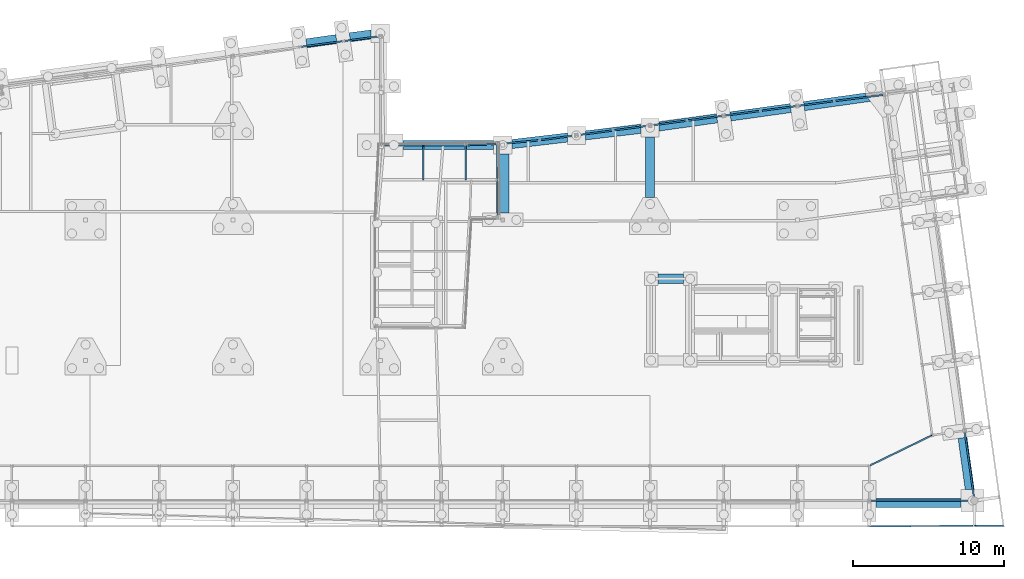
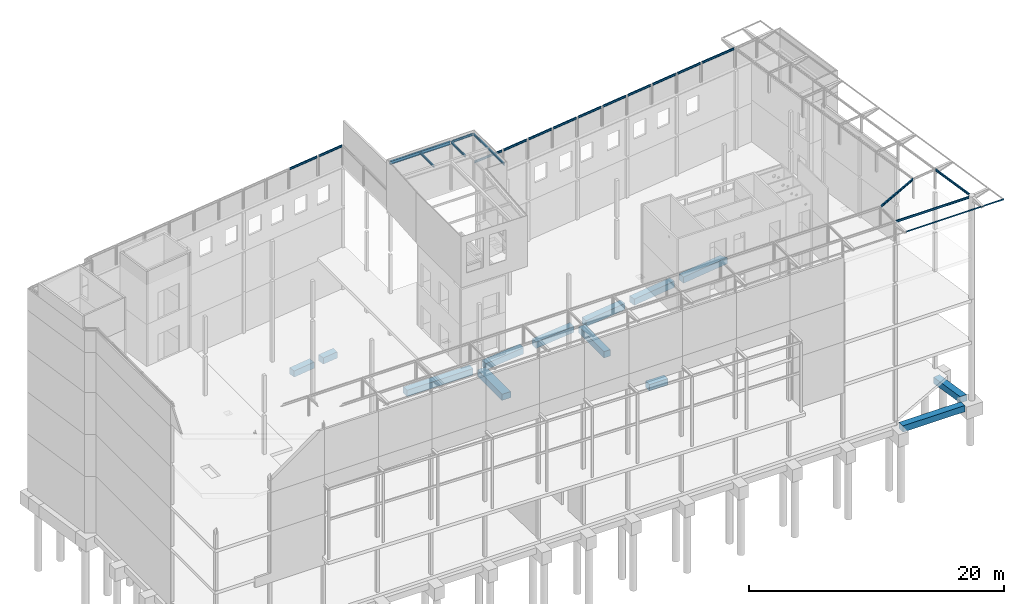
# One storey, part 64 of 82: 36 beams.
"""IFC2X3 building model written with IfcOpenShell, lengths in millimetres."""

import ifcopenshell
import ifcopenshell.guid

model = None  # the IFC model being written
_history = None  # IfcOwnerHistory: only IFC2X3 demands one
_inside = {}  # id of a spatial element -> (the spatial element, [elements in it])
_under = {}  # id of a project, library or spatial element -> (it, [spatial elements below it])
_declared = {}  # id of a project -> (the project, [libraries it declares])
_typed = {}  # id of a type object -> (the type object, [elements of that type])
_made_of = {}  # id of a material, layer set ... -> (it, [elements and type objects made of it])


def new_model(schema):
    """Start an empty IFC model of exactly this schema.

    Asked for "IFC4X3", IfcOpenShell would pick the latest addendum, in which some entities
    have other attributes; the version numbers below select the first issue.
    IFC2X3 requires an IfcOwnerHistory on every rooted entity: one is made here for all.
    """
    global model, _history
    if schema == "IFC4X3":
        model = ifcopenshell.file(schema_version=(4, 3, 0, 0))
    else:
        model = ifcopenshell.file(schema=schema)
    _inside.clear()
    _under.clear()
    _declared.clear()
    _typed.clear()
    _made_of.clear()
    _history = None
    if model.schema == "IFC2X3":
        org = make("IfcOrganization", Name="unknown")
        user = make(
            "IfcPersonAndOrganization",
            ThePerson=make("IfcPerson", FamilyName="unknown"),
            TheOrganization=org,
        )
        app = make(
            "IfcApplication",
            ApplicationDeveloper=org,
            Version="unknown",
            ApplicationFullName="unknown",
            ApplicationIdentifier="unknown",
        )
        _history = make(
            "IfcOwnerHistory",
            OwningUser=user,
            OwningApplication=app,
            ChangeAction="ADDED",
            CreationDate=0,
        )
    return model


def make(cls, **values):
    """One entity of the class cls with the attributes given. An attribute that is None is left unset."""
    return model.create_entity(
        cls, **{name: value for name, value in values.items() if value is not None}
    )


def rooted(cls, **values):
    """An entity with a GlobalId (a new one), such as an element, a storey or a relation."""
    return make(cls, GlobalId=ifcopenshell.guid.new(), OwnerHistory=_history, **values)


def si_unit(unit_type, name, prefix=None):
    """IfcSIUnit, for example si_unit("LENGTHUNIT", "METRE", prefix="MILLI")."""
    return make("IfcSIUnit", UnitType=unit_type, Prefix=prefix, Name=name)


def assignment(units):
    """IfcUnitAssignment: the units of a project."""
    return None if units is None else make("IfcUnitAssignment", Units=units)


def point(xyz):
    """IfcCartesianPoint."""
    return None if xyz is None else make("IfcCartesianPoint", Coordinates=xyz)


def direction(xyz):
    """IfcDirection."""
    return None if xyz is None else make("IfcDirection", DirectionRatios=xyz)


def frame(location, z_axis=None, x_axis=None):
    """IfcAxis2Placement3D, a coordinate frame: its origin and axes. An axis left out is left unset."""
    return make(
        "IfcAxis2Placement3D",
        Location=point(location),
        Axis=direction(z_axis),
        RefDirection=direction(x_axis),
    )


def frame_2d(location, x_axis=None):
    """IfcAxis2Placement2D, a coordinate frame in the plane: its origin and x axis."""
    return make(
        "IfcAxis2Placement2D", Location=point(location), RefDirection=direction(x_axis)
    )


def origin_with_axes():
    """The frame at (0, 0, 0) with the z axis (0, 0, 1) and the x axis (1, 0, 0) written out."""
    return frame((0.0, 0.0, 0.0), z_axis=(0.0, 0.0, 1.0), x_axis=(1.0, 0.0, 0.0))


def place(relative_to, where):
    """IfcLocalPlacement: puts the frame where relative to a parent placement (None: the world)."""
    return make(
        "IfcLocalPlacement", PlacementRelTo=relative_to, RelativePlacement=where
    )


def context(
    kind, dimensions, precision=None, world=None, true_north=None, identifier=None
):
    """IfcGeometricRepresentationContext, for example the 3D "Model" context."""
    return make(
        "IfcGeometricRepresentationContext",
        ContextIdentifier=identifier,
        ContextType=kind,
        CoordinateSpaceDimension=dimensions,
        Precision=precision,
        WorldCoordinateSystem=world,
        TrueNorth=true_north,
    )


def subcontext(parent, identifier, kind, view, scale=None):
    """IfcGeometricRepresentationSubContext, for example "Body" below "Model"."""
    return make(
        "IfcGeometricRepresentationSubContext",
        ContextIdentifier=identifier,
        ContextType=kind,
        ParentContext=parent,
        TargetScale=scale,
        TargetView=view,
    )


def project(units=None, contexts=None):
    """IfcProject with its units and contexts."""
    return rooted(
        "IfcProject",
        Name="project",
        RepresentationContexts=contexts,
        UnitsInContext=assignment(units),
    )


def spatial(cls, under=None, at=None, **own):
    """A site, building, storey or space (cls), placed at a placement, below another one or the project."""
    s = rooted(cls, ObjectPlacement=at, **own)
    if under is not None:
        _under.setdefault(under.id(), (under, []))[1].append(s)
    return s


def polyline(points):
    """IfcPolyline through the points."""
    return make("IfcPolyline", Points=[point(p) for p in points])


def profile(cls, at=None, kind="AREA", **sizes):
    """A parametric profile (cls). Its sizes go by their IFC names, for example OverallWidth=200.0."""
    return make(cls, ProfileType=kind, Position=at, **sizes)


def rectangle(**sizes):
    """IfcRectangleProfileDef."""
    return profile("IfcRectangleProfileDef", **sizes)


def circle(**sizes):
    """IfcCircleProfileDef."""
    return profile("IfcCircleProfileDef", **sizes)


def i_section(**sizes):
    """IfcIShapeProfileDef."""
    return profile("IfcIShapeProfileDef", **sizes)


def u_section(**sizes):
    """IfcUShapeProfileDef."""
    return profile("IfcUShapeProfileDef", **sizes)


def outline(outer, holes=None, kind="AREA"):
    """IfcArbitraryClosedProfileDef: a profile drawn as a closed curve; with holes, ...WithVoids."""
    if holes is None:
        return make("IfcArbitraryClosedProfileDef", ProfileType=kind, OuterCurve=outer)
    return make(
        "IfcArbitraryProfileDefWithVoids",
        ProfileType=kind,
        OuterCurve=outer,
        InnerCurves=holes,
    )


def extrude(swept, where, along, depth):
    """IfcExtrudedAreaSolid: the profile swept, set in the frame where, extruded along a direction by depth."""
    return make(
        "IfcExtrudedAreaSolid",
        SweptArea=swept,
        Position=where,
        ExtrudedDirection=direction(along),
        Depth=depth,
    )


def boolean(op, a, b):
    """IfcBooleanResult of two solids."""
    return make("IfcBooleanResult", Operator=op, FirstOperand=a, SecondOperand=b)


def clip(a, b, op="DIFFERENCE"):
    """IfcBooleanClippingResult: the solid a cut by the half space b."""
    return make(
        "IfcBooleanClippingResult", Operator=op, FirstOperand=a, SecondOperand=b
    )


def halfspace(plane, agree):
    """IfcHalfSpaceSolid: all space on one side of the plane z = 0 of the frame plane."""
    return make(
        "IfcHalfSpaceSolid",
        BaseSurface=make("IfcPlane", Position=plane),
        AgreementFlag=agree,
    )


def shape(context_of_items, identifier, shape_type, items):
    """IfcShapeRepresentation: the items that make up one representation, for example the "Body"."""
    return make(
        "IfcShapeRepresentation",
        ContextOfItems=context_of_items,
        RepresentationIdentifier=identifier,
        RepresentationType=shape_type,
        Items=items,
    )


def material(Name=None, Category=None):
    """IfcMaterial."""
    return make("IfcMaterial", Name=Name, Category=Category)


def made_of(thing, what):
    """Note that an element or type object is made of a material, layer set ...; save() writes the relation."""
    if what is not None:
        _made_of.setdefault(what.id(), (what, []))[1].append(thing)
    return thing


def type_object(cls, material=None, **own):
    """A type object (cls), such as IfcWallType, which elements share."""
    return made_of(rooted(cls, **own), material)


def element(
    cls,
    number,
    at=None,
    inside=None,
    cuts=None,
    type_object=None,
    material=None,
    context=None,
    identifier="Body",
    shape_type=None,
    held_by="IfcProductDefinitionShape",
    body=None,
    shapes=None,
    **own,
):
    """One element of the class cls, such as IfcWall. Its Tag is "e" and its number.

    at: its placement. inside: the storey or other place that contains it. cuts: it is an
    opening in that element (IfcRelVoidsElement). A single representation is given by context,
    identifier, shape_type and body (its items); several are given by shapes. held_by: the class
    of the entity that holds the representations. save() writes the other relations.
    """
    e = rooted(cls, Tag="e%d" % number, ObjectPlacement=at, **own)
    if body is not None:
        shapes = [shape(context, identifier, shape_type, body)]
    if shapes is not None:
        e.Representation = make(held_by, Representations=shapes)
    if inside is not None:
        _inside.setdefault(inside.id(), (inside, []))[1].append(e)
    if cuts is not None:
        rooted(
            "IfcRelVoidsElement", RelatingBuildingElement=cuts, RelatedOpeningElement=e
        )
    if type_object is not None:
        _typed.setdefault(type_object.id(), (type_object, []))[1].append(e)
    return made_of(e, material)


def aggregate(whole, parts):
    """IfcRelAggregates: a whole, such as a stair, and the parts it consists of."""
    return rooted("IfcRelAggregates", RelatingObject=whole, RelatedObjects=parts)


def save(model, path):
    """Write the relations noted so far, then the file.

    IfcRelAggregates (storeys below a building ...), IfcRelContainedInSpatialStructure (elements
    in a storey), IfcRelDefinesByType, IfcRelAssociatesMaterial and IfcRelDeclares: one each for
    every whole, place, type object, material and project.
    """
    for whole, parts in _under.values():
        aggregate(whole, parts)
    for where, things in _inside.values():
        rooted(
            "IfcRelContainedInSpatialStructure",
            RelatedElements=things,
            RelatingStructure=where,
        )
    for kind, things in _typed.values():
        rooted("IfcRelDefinesByType", RelatedObjects=things, RelatingType=kind)
    for what, things in _made_of.values():
        rooted("IfcRelAssociatesMaterial", RelatedObjects=things, RelatingMaterial=what)
    for by, libraries in _declared.values():
        rooted("IfcRelDeclares", RelatingContext=by, RelatedDefinitions=libraries)
    model.write(path)


model = new_model("IFC2X3")

# Units and contexts
model_context = context("Model", 3, precision=1e-05, world=origin_with_axes())
body_context = subcontext(model_context, "Body", "Model", "MODEL_VIEW")
ifc_project = project(units=[si_unit("LENGTHUNIT", "METRE", prefix="MILLI"), si_unit("AREAUNIT", "SQUARE_METRE"), si_unit("VOLUMEUNIT", "CUBIC_METRE"), si_unit("MASSUNIT", "GRAM", prefix="KILO"), si_unit("TIMEUNIT", "SECOND"), si_unit("PLANEANGLEUNIT", "RADIAN"), si_unit("SOLIDANGLEUNIT", "STERADIAN"), si_unit("THERMODYNAMICTEMPERATUREUNIT", "DEGREE_CELSIUS"), si_unit("LUMINOUSINTENSITYUNIT", "LUMEN")], contexts=[model_context])

# Site, building, storey
site_placement = place(None, origin_with_axes())
site = spatial("IfcSite", under=ifc_project, at=site_placement, Name="Undefined", CompositionType="ELEMENT")
building_placement = place(site_placement, origin_with_axes())
building = spatial("IfcBuilding", under=site, at=building_placement, Name="Undefined", CompositionType="ELEMENT")
storey_placement = place(building_placement, origin_with_axes())
storey = spatial("IfcBuildingStorey", under=building, at=storey_placement, Name="Undefined", CompositionType="ELEMENT", Elevation=0.0)

# Beams
ifc_material_1 = material(Name="STEEL/S275JR")
beam_type_1 = type_object("IfcBeamType", Name="IPE200", PredefinedType="NOTDEFINED")
beam_1_placement = place(storey_placement, frame((61600.0004307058, -1.05958122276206e-07, 19025.0000000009), z_axis=(-4.30700000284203e-06, 0.0, 0.999999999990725), x_axis=(0.999999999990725, 0.0, 4.30700000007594e-06)))
element("IfcBeam", 1, at=beam_1_placement, inside=storey, type_object=beam_type_1, material=ifc_material_1, Name="POUTRE", ObjectType="IPE200", context=body_context, shape_type="CSG", body=[
    boolean("DIFFERENCE", extrude(i_section(OverallWidth=100.0, OverallDepth=200.0, WebThickness=5.599999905, FlangeThickness=8.5, FilletRadius=12.0, at=frame_2d((5.17284206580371e-08, 4.49290382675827e-10), x_axis=(1.0, 0.0))), frame((6962.24337889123, 1.32348898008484e-23, 5.89724952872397e-18), z_axis=(-1.0, 0.0, 0.0), x_axis=(-2.77555756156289e-17, -1.0, 0.0)), (0.0, 0.0, 1.0), 6882.2), extrude(circle(Radius=250.0, at=frame_2d((5.17284206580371e-08, 4.49290382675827e-10), x_axis=(1.0, 0.0))), frame((6962.24165608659, 22.4007432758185, -400.001076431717), z_axis=(4.30700000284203e-06, 0.0, 0.999999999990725), x_axis=(0.0179430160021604, -0.999839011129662, -7.72805699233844e-08)), (0.0, 0.0, 1.0), 800.0)),
])
beam_2_placement = place(storey_placement, frame((59285.57312951, 26459.0392509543, 19025.0), z_axis=(0.0, 0.0, 1.0), x_axis=(0.992406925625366, 0.122997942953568, 0.0)))
element("IfcBeam", 2, at=beam_2_placement, inside=storey, type_object=beam_type_1, material=ifc_material_1, Name="POUTRE", ObjectType="IPE200", context=body_context, shape_type="Clipping", body=[
    clip(clip(extrude(i_section(OverallWidth=100.0, OverallDepth=200.0, WebThickness=5.599999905, FlangeThickness=8.5, FilletRadius=12.0, at=frame_2d((5.17284206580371e-08, 4.49290382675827e-10), x_axis=(1.0, 0.0))), frame((3283.43693400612, 4.55668410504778e-14, 3.63797880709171e-12), z_axis=(-1.0, 0.0, 0.0), x_axis=(-2.77555756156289e-17, -1.0, 0.0)), (0.0, 0.0, 1.0), 3229.3), halfspace(frame((3257.54963955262, -6.46759872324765e-08, -999.999999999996), z_axis=(-0.999866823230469, -0.0163197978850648, 0.0), x_axis=(-0.0163197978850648, 0.999866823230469, 0.0)), True)), halfspace(frame((80.0040900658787, -5.97756297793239e-08, -999.999999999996), z_axis=(0.999961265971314, 0.00880150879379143, 0.0), x_axis=(0.00880150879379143, -0.999961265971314, 0.0)), True)),
])
beam_3_placement = place(storey_placement, frame((56848.2865849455, 26135.158518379, 19025.0), z_axis=(0.0, 0.0, 1.0), x_axis=(0.99128603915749, 0.131726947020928, 0.0)))
element("IfcBeam", 3, at=beam_3_placement, inside=storey, type_object=beam_type_1, material=ifc_material_1, Name="POUTRE", ObjectType="IPE200", context=body_context, shape_type="SweptSolid", body=[
    extrude(i_section(OverallWidth=100.0, OverallDepth=200.0, WebThickness=5.599999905, FlangeThickness=8.5, FilletRadius=12.0, at=frame_2d((5.17284206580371e-08, 4.49290382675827e-10), x_axis=(1.0, 0.0))), frame((2378.71293633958, 0.0, 0.0), z_axis=(-1.0, 0.0, 0.0), x_axis=(-2.77555756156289e-17, -1.0, 0.0)), (0.0, 0.0, 1.0), 2297.2),
])
beam_4_placement = place(storey_placement, frame((54411.000040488, 25811.2777857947, 19025.0), z_axis=(0.0, 0.0, 1.0), x_axis=(0.99128603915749, 0.131726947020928, 0.0)))
element("IfcBeam", 4, at=beam_4_placement, inside=storey, type_object=beam_type_1, material=ifc_material_1, Name="POUTRE", ObjectType="IPE200", context=body_context, shape_type="SweptSolid", body=[
    extrude(i_section(OverallWidth=100.0, OverallDepth=200.0, WebThickness=5.599999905, FlangeThickness=8.5, FilletRadius=12.0, at=frame_2d((5.17284206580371e-08, 4.49290382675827e-10), x_axis=(1.0, 0.0))), frame((2458.71194508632, 0.0, 0.0), z_axis=(-1.0, 0.0, 0.0), x_axis=(-2.77555756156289e-17, -1.0, 0.0)), (0.0, 0.0, 1.0), 2378.7),
])
for number, where, z_axis, x_axis, name in (
    (5, (51973.7134960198, 25487.3970532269, 19025.0), (0.0, 0.0, 1.0), (0.99128603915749, 0.131726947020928, 0.0), "POUTRE"),
    (6, (49536.4269515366, 25163.5163206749, 19025.0), (0.0, 0.0, 1.0), (0.99128603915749, 0.131726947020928, 0.0), "POUTRE"),
):
    element("IfcBeam", number, at=place(storey_placement, frame(where, z_axis=z_axis, x_axis=x_axis)), inside=storey, type_object=beam_type_1, material=ifc_material_1, Name=name, ObjectType="IPE200", context=body_context, shape_type="SweptSolid", body=[
        extrude(i_section(OverallWidth=100.0, OverallDepth=200.0, WebThickness=5.599999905, FlangeThickness=8.5, FilletRadius=12.0, at=frame_2d((5.17284206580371e-08, 4.49290382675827e-10), x_axis=(1.0, 0.0))), frame((2378.71293633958, 0.0, 0.0), z_axis=(-1.0, 0.0, 0.0), x_axis=(-2.77555756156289e-17, -1.0, 0.0)), (0.0, 0.0, 1.0), 2298.7),
    ])
for number, where, z_axis, x_axis, name in (
    (7, (47099.1419470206, 24839.6315244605, 19025.0), (0.0, 0.0, 1.0), (0.99128603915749, 0.131726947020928, 0.0), "POUTRE"),
    (8, (44661.8569423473, 24515.7467293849, 19025.0), (0.0, 0.0, 1.0), (0.99128603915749, 0.131726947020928, 0.0), "POUTRE"),
):
    element("IfcBeam", number, at=place(storey_placement, frame(where, z_axis=z_axis, x_axis=x_axis)), inside=storey, type_object=beam_type_1, material=ifc_material_1, Name=name, ObjectType="IPE200", context=body_context, shape_type="SweptSolid", body=[
        extrude(i_section(OverallWidth=100.0, OverallDepth=200.0, WebThickness=5.599999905, FlangeThickness=8.5, FilletRadius=12.0, at=frame_2d((5.17284206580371e-08, 4.49290382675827e-10), x_axis=(1.0, 0.0))), frame((2378.71194507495, 0.0, 0.0), z_axis=(-1.0, 0.0, 0.0), x_axis=(-2.77555756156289e-17, -1.0, 0.0)), (0.0, 0.0, 1.0), 2298.7),
    ])
beam_5_placement = place(storey_placement, frame((23939.9998779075, 30040.8750101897, 19025.0), z_axis=(0.0, 0.0, 1.0), x_axis=(0.991215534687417, 0.132256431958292, 0.0)))
element("IfcBeam", 9, at=beam_5_placement, inside=storey, type_object=beam_type_1, material=ifc_material_1, Name="POUTRE", ObjectType="IPE200", context=body_context, shape_type="SweptSolid", body=[
    extrude(i_section(OverallWidth=100.0, OverallDepth=200.0, WebThickness=5.599999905, FlangeThickness=8.5, FilletRadius=12.0, at=frame_2d((5.17284206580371e-08, 4.49290382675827e-10), x_axis=(1.0, 0.0))), frame((2821.61294725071, 7.83154915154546e-14, 0.0), z_axis=(-1.0, 0.0, 0.0), x_axis=(-2.77555756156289e-17, -1.0, 0.0)), (0.0, 0.0, 1.0), 2741.6),
])
beam_6_placement = place(storey_placement, frame((26816.1237068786, 30424.6319855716, 19025.0), z_axis=(0.0, 0.0, 1.0), x_axis=(0.991215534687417, 0.132256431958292, 0.0)))
element("IfcBeam", 10, at=beam_6_placement, inside=storey, type_object=beam_type_1, material=ifc_material_1, Name="POUTRE", ObjectType="IPE200", context=body_context, shape_type="Clipping", body=[
    clip(extrude(i_section(OverallWidth=100.0, OverallDepth=200.0, WebThickness=5.599999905, FlangeThickness=8.5, FilletRadius=12.0, at=frame_2d((5.17284206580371e-08, 4.49290382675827e-10), x_axis=(1.0, 0.0))), frame((2394.71692487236, 0.0, 0.0), z_axis=(-1.0, 0.0, 0.0), x_axis=(-2.77555756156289e-17, -1.0, 0.0)), (0.0, 0.0, 1.0), 2314.7), halfspace(frame((2374.73817815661, -1.07647792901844e-08, -1000.0), z_axis=(-0.991215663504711, 0.132255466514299, 0.0), x_axis=(0.132255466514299, 0.991215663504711, 0.0)), True)),
])
beam_7_placement = place(storey_placement, frame((32084.9999999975, 21244.1000000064, 21745.0), z_axis=(0.0, 0.0, 1.0), x_axis=(0.0, 1.0, 0.0)))
element("IfcBeam", 11, at=beam_7_placement, inside=storey, type_object=beam_type_1, material=ifc_material_1, Name="POUTRE", ObjectType="IPE200", context=body_context, shape_type="CSG", body=[
    boolean("DIFFERENCE", extrude(i_section(OverallWidth=100.0, OverallDepth=200.0, WebThickness=5.599999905, FlangeThickness=8.5, FilletRadius=12.0, at=frame_2d((5.17284206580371e-08, 4.49290382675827e-10), x_axis=(1.0, 0.0))), frame((2296.45000004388, 0.0, 0.0), z_axis=(-1.0, 0.0, 0.0), x_axis=(-2.77555756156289e-17, -1.0, 0.0)), (0.0, 0.0, 1.0), 2292.3), extrude(rectangle(XDim=26.7, YDim=83.5, at=frame_2d((5.17284206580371e-08, 4.49290382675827e-10), x_axis=(1.0, 0.0))), frame((2256.72501262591, 51.0000098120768, 87.6500000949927), z_axis=(-2.77555756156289e-17, -1.0, 0.0), x_axis=(0.0, -6.50000002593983e-08, -0.999999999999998)), (0.0, 0.0, 1.0), 102.0)),
])
beam_8_placement = place(storey_placement, frame((34920.0000000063, 21244.1000000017, 21745.0), z_axis=(0.0, 0.0, 1.0), x_axis=(0.0, 1.0, 0.0)))
element("IfcBeam", 12, at=beam_8_placement, inside=storey, type_object=beam_type_1, material=ifc_material_1, Name="POUTRE", ObjectType="IPE200", context=body_context, shape_type="SweptSolid", body=[
    extrude(i_section(OverallWidth=100.0, OverallDepth=200.0, WebThickness=5.599999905, FlangeThickness=8.5, FilletRadius=12.0, at=frame_2d((5.17284206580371e-08, 4.49290382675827e-10), x_axis=(1.0, 0.0))), frame((2293.20000003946, 0.0, 0.0), z_axis=(-1.0, 0.0, 0.0), x_axis=(-2.77555756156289e-17, -1.0, 0.0)), (0.0, 0.0, 1.0), 2289.3),
])
beam_9_placement = place(storey_placement, frame((37009.7003801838, 21243.5912854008, 21745.0), z_axis=(0.0, 0.0, 1.0), x_axis=(0.00520302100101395, -0.999986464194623, 0.0)))
element("IfcBeam", 13, at=beam_9_placement, inside=storey, type_object=beam_type_1, material=ifc_material_1, Name="POUTRE", ObjectType="IPE200", context=body_context, shape_type="CSG", body=[
    boolean("DIFFERENCE", boolean("DIFFERENCE", boolean("DIFFERENCE", boolean("DIFFERENCE", extrude(i_section(OverallWidth=100.0, OverallDepth=200.0, WebThickness=5.599999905, FlangeThickness=8.5, FilletRadius=12.0, at=frame_2d((5.17284206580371e-08, 4.49290382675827e-10), x_axis=(1.0, 0.0))), frame((2483.48823723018, -2.15408267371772e-15, -3.63797880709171e-12), z_axis=(-1.0, 0.0, 0.0), x_axis=(-2.77555756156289e-17, -1.0, 0.0)), (0.0, 0.0, 1.0), 2480.0), extrude(rectangle(XDim=11.9, YDim=88.0, at=frame_2d((5.17284206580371e-08, 4.49290382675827e-10), x_axis=(1.0, 0.0))), frame((2440.66179987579, -57.7185035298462, 100.999999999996), z_axis=(0.0, -6.50000002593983e-08, -0.999999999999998), x_axis=(0.00520204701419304, 0.999986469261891, 0.0)), (0.0, 0.0, 1.0), 202.0)), extrude(rectangle(XDim=11.9, YDim=88.0, at=frame_2d((5.17284206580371e-08, 4.49290382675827e-10), x_axis=(1.0, 0.0))), frame((46.3008808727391, 57.7185040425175, 100.999999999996), z_axis=(0.0, -6.50000002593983e-08, -0.999999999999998), x_axis=(-0.00520204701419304, -0.999986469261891, 0.0)), (0.0, 0.0, 1.0), 202.0)), halfspace(frame((2482.96262662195, -3.03261913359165e-08, -1000.0), z_axis=(-0.999986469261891, 0.00520204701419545, 0.0), x_axis=(0.00520204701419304, 0.999986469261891, 0.0)), True)), halfspace(frame((4.00005415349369, -3.42697603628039e-08, -1000.0), z_axis=(0.999986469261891, -0.00520204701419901, 0.0), x_axis=(-0.00520204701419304, -0.999986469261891, 0.0)), True)),
])
beam_10_placement = place(storey_placement, frame((36997.3975835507, 23604.7617140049, 21745.0), z_axis=(0.0, 0.0, 1.0), x_axis=(0.00521039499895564, -0.999986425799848, 0.0)))
element("IfcBeam", 14, at=beam_10_placement, inside=storey, type_object=beam_type_1, material=ifc_material_1, Name="POUTRE", ObjectType="IPE200", context=body_context, shape_type="CSG", body=[
    boolean("DIFFERENCE", boolean("DIFFERENCE", boolean("DIFFERENCE", boolean("DIFFERENCE", extrude(i_section(OverallWidth=100.0, OverallDepth=200.0, WebThickness=5.599999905, FlangeThickness=8.5, FilletRadius=12.0, at=frame_2d((5.17284206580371e-08, 4.49290382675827e-10), x_axis=(1.0, 0.0))), frame((2357.72878120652, -7.27595761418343e-12, -3.63797880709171e-12), z_axis=(-1.0, 0.0, 0.0), x_axis=(-2.77555756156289e-17, -1.0, 0.0)), (0.0, 0.0, 1.0), 2354.3), extrude(rectangle(XDim=11.3, YDim=88.0, at=frame_2d((5.17284206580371e-08, 4.49290382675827e-10), x_axis=(1.0, 0.0))), frame((2314.90283231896, -57.3997547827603, 100.999999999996), z_axis=(0.0, -6.50000002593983e-08, -0.999999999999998), x_axis=(0.00520942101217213, 0.999986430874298, 0.0)), (0.0, 0.0, 1.0), 202.0)), extrude(rectangle(XDim=11.3, YDim=88.0, at=frame_2d((5.17284206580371e-08, 4.49290382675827e-10), x_axis=(1.0, 0.0))), frame((46.2994047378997, 57.3997549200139, 100.999999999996), z_axis=(0.0, -6.50000002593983e-08, -0.999999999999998), x_axis=(-0.00520942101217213, -0.999986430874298, 0.0)), (0.0, 0.0, 1.0), 202.0)), halfspace(frame((2357.2024257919, -3.42915882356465e-08, -1000.0), z_axis=(-0.999986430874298, 0.00520942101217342, 0.0), x_axis=(0.00520942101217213, 0.999986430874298, 0.0)), True)), halfspace(frame((3.99981129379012, -3.80241544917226e-08, -1000.0), z_axis=(0.999986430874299, -0.00520942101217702, 0.0), x_axis=(-0.00520942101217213, -0.999986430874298, 0.0)), True)),
])
beam_11_placement = place(storey_placement, frame((34919.9994329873, 23544.1000000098, 21745.0), z_axis=(0.0, 0.0, 1.0), x_axis=(0.999573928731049, 0.0291883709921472, 0.0)))
element("IfcBeam", 15, at=beam_11_placement, inside=storey, type_object=beam_type_1, material=ifc_material_1, Name="POUTRE", ObjectType="IPE200", context=body_context, shape_type="Clipping", body=[
    clip(clip(extrude(i_section(OverallWidth=100.0, OverallDepth=200.0, WebThickness=5.599999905, FlangeThickness=8.5, FilletRadius=12.0, at=frame_2d((5.17284206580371e-08, 4.49290382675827e-10), x_axis=(1.0, 0.0))), frame((2001.19892987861, 6.94305352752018e-15, -3.63797880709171e-12), z_axis=(-1.0, 0.0, 0.0), x_axis=(-2.77555756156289e-17, -1.0, 0.0)), (0.0, 0.0, 1.0), 1924.1), halfspace(frame((1998.24954952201, -2.86454451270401e-08, -1000.0), z_axis=(-0.999573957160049, 0.0291873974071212, 0.0), x_axis=(0.0291873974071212, 0.999573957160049, 0.0)), True)), halfspace(frame((80.0340836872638, -2.55968188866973e-08, -1000.0), z_axis=(0.999573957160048, -0.0291873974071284, 0.0), x_axis=(-0.0291873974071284, -0.999573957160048, 0.0)), True)),
])
beam_12_placement = place(storey_placement, frame((68565.383546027, 0.0276137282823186, 19025.0), z_axis=(0.0, 0.0, 1.0), x_axis=(-0.13917310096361, 0.990268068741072, 0.0)))
element("IfcBeam", 16, at=beam_12_placement, inside=storey, type_object=beam_type_1, material=ifc_material_1, Name="POUTRE", ObjectType="IPE200", context=body_context, shape_type="CSG", body=[
    boolean("DIFFERENCE", extrude(i_section(OverallWidth=100.0, OverallDepth=200.0, WebThickness=5.599999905, FlangeThickness=8.5, FilletRadius=12.0, at=frame_2d((5.17284206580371e-08, 4.49290382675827e-10), x_axis=(1.0, 0.0))), frame((4616.56067017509, 0.0, 0.0), z_axis=(-1.0, 0.0, 0.0), x_axis=(-2.77555756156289e-17, -1.0, 0.0)), (0.0, 0.0, 1.0), 4594.0), extrude(circle(Radius=250.0, at=frame_2d((5.17284206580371e-08, 4.49290382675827e-10), x_axis=(1.0, 0.0))), frame((22.5923625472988, -0.00455700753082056, -400.0), z_axis=(0.0, 0.0, 1.0), x_axis=(-3.64655793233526e-06, 0.999999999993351, 0.0)), (0.0, 0.0, 1.0), 800.0)),
])
beam_13_placement = place(storey_placement, frame((61599.9999999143, 2324.99999991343, 19025.0), z_axis=(0.0, 0.0, 1.0), x_axis=(0.899345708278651, 0.437238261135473, 0.0)))
element("IfcBeam", 17, at=beam_13_placement, inside=storey, type_object=beam_type_1, material=ifc_material_1, Name="POUTRE", ObjectType="IPE200", context=body_context, shape_type="CSG", body=[
    boolean("DIFFERENCE", boolean("DIFFERENCE", boolean("DIFFERENCE", extrude(i_section(OverallWidth=100.0, OverallDepth=200.0, WebThickness=5.599999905, FlangeThickness=8.5, FilletRadius=12.0, at=frame_2d((5.17284206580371e-08, 4.49290382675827e-10), x_axis=(1.0, 0.0))), frame((4678.51001473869, 0.0, -3.63797880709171e-12), z_axis=(-1.0, 0.0, 0.0), x_axis=(-2.77555756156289e-17, -1.0, 0.0)), (0.0, 0.0, 1.0), 4643.5), extrude(rectangle(XDim=88.0, YDim=1401.5, at=frame_2d((5.17284206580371e-08, 4.49290382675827e-10), x_axis=(1.0, 0.0))), frame((4353.2953043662, -702.037882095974, 100.999999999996), z_axis=(0.0, -6.50000002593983e-08, -0.999999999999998), x_axis=(-0.95144514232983, 0.307818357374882, 0.0)), (0.0, 0.0, 1.0), 202.0)), halfspace(frame((4624.5670111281, -6.48906279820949e-08, -1000.0), z_axis=(-0.95144514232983, 0.307818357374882, 0.0), x_axis=(0.307818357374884, 0.951445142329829, 0.0)), True)), halfspace(frame((88.9535165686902, -6.04304659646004e-08, -1000.0), z_axis=(0.899346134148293, -0.43723738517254, 0.0), x_axis=(-0.43723738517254, -0.899346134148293, 0.0)), True)),
])
beam_14_placement = place(storey_placement, frame((42224.5719375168, 24191.8619354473, 19025.0), z_axis=(0.0, 0.0, 1.0), x_axis=(0.99128603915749, 0.131726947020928, 0.0)))
element("IfcBeam", 18, at=beam_14_placement, inside=storey, type_object=beam_type_1, material=ifc_material_1, Name="POUTRE", ObjectType="IPE200", context=body_context, shape_type="SweptSolid", body=[
    extrude(i_section(OverallWidth=100.0, OverallDepth=200.0, WebThickness=5.599999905, FlangeThickness=8.5, FilletRadius=12.0, at=frame_2d((5.17284206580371e-08, 4.49290382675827e-10), x_axis=(1.0, 0.0))), frame((2378.71194507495, 0.0, 0.0), z_axis=(-1.0, 0.0, 0.0), x_axis=(-2.77555756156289e-17, -1.0, 0.0)), (0.0, 0.0, 1.0), 2298.7),
])
beam_15_placement = place(storey_placement, frame((39787.2860575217, 23867.9812899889, 19025.0), z_axis=(0.0, 0.0, 1.0), x_axis=(0.99128603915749, 0.131726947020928, 0.0)))
element("IfcBeam", 19, at=beam_15_placement, inside=storey, type_object=beam_type_1, material=ifc_material_1, Name="POUTRE", ObjectType="IPE200", context=body_context, shape_type="SweptSolid", body=[
    extrude(i_section(OverallWidth=100.0, OverallDepth=200.0, WebThickness=5.599999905, FlangeThickness=8.5, FilletRadius=12.0, at=frame_2d((5.17284206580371e-08, 4.49290382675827e-10), x_axis=(1.0, 0.0))), frame((2378.71226614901, 6.60225281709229e-14, -3.63797880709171e-12), z_axis=(-1.0, 0.0, 0.0), x_axis=(-2.77555756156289e-17, -1.0, 0.0)), (0.0, 0.0, 1.0), 2298.7),
])
beam_16_placement = place(storey_placement, frame((36997.3978265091, 23604.7616769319, 19025.0), z_axis=(0.0, 0.0, 1.0), x_axis=(0.995578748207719, 0.0939305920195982, 0.0)))
element("IfcBeam", 20, at=beam_16_placement, inside=storey, type_object=beam_type_1, material=ifc_material_1, Name="POUTRE", ObjectType="IPE200", context=body_context, shape_type="Clipping", body=[
    clip(clip(extrude(i_section(OverallWidth=100.0, OverallDepth=200.0, WebThickness=5.599999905, FlangeThickness=8.5, FilletRadius=12.0, at=frame_2d((5.17284206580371e-08, 4.49290382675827e-10), x_axis=(1.0, 0.0))), frame((2738.31769639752, 0.0, 0.0), z_axis=(-1.0, 0.0, 0.0), x_axis=(-2.77555756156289e-17, -1.0, 0.0)), (0.0, 0.0, 1.0), 2674.1), halfspace(frame((2722.21988235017, -3.04535205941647e-08, -1000.0), z_axis=(-0.999276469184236, -0.0380333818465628, 0.0), x_axis=(-0.0380333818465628, 0.999276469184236, 0.0)), True)), halfspace(frame((80.3550194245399, -2.63244146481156e-08, -1000.0), z_axis=(0.995578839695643, -0.0939296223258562, 0.0), x_axis=(-0.0939296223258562, -0.995578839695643, 0.0)), True)),
])
beam_type_2 = type_object("IfcBeamType", Name="UPE120", PredefinedType="NOTDEFINED")
beam_17_placement = place(storey_placement, frame((68571.9256509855, -1647.59931098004, 19065.0), z_axis=(0.0, -6.50000002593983e-08, -0.999999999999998), x_axis=(1.0, 0.0, 0.0)))
element("IfcBeam", 21, at=beam_17_placement, inside=storey, type_object=beam_type_2, material=ifc_material_1, Name="POUTRE", ObjectType="UPE120", context=body_context, shape_type="CSG", body=[
    boolean("DIFFERENCE", boolean("DIFFERENCE", extrude(u_section(Depth=120.0, FlangeWidth=60.0, WebThickness=5.0, FlangeThickness=8.0, FilletRadius=12.0, at=frame_2d((5.17284206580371e-08, 4.49290382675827e-10), x_axis=(1.0, 0.0))), frame((1946.29822952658, 0.0, 0.0), z_axis=(-1.0, 0.0, 0.0), x_axis=(-2.77555756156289e-17, -1.0, 0.0)), (0.0, 0.0, 1.0), 1947.8), extrude(rectangle(XDim=22.0, YDim=112.0, at=frame_2d((5.17284206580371e-08, 4.49290382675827e-10), x_axis=(1.0, 0.0))), frame((52.4612905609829, 31.0, -50.0148687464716), z_axis=(-2.77555756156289e-17, -1.0, 0.0), x_axis=(0.0, 0.0, 1.0)), (0.0, 0.0, 1.0), 62.0)), halfspace(frame((1945.95311747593, 30.0000000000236, 0.0), z_axis=(0.656057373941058, -0.754711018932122, 0.0), x_axis=(0.0, -6.50000002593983e-08, -0.999999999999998)), False)),
])
beam_18_placement = place(storey_placement, frame((61619.267375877, -1670.00026465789, 19065.0), z_axis=(0.0, -6.50000002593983e-08, -0.999999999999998), x_axis=(0.999994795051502, 0.00322643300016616, 0.0)))
element("IfcBeam", 22, at=beam_18_placement, inside=storey, type_object=beam_type_2, material=ifc_material_1, Name="POUTRE", ObjectType="UPE120", context=body_context, shape_type="CSG", body=[
    boolean("DIFFERENCE", boolean("DIFFERENCE", extrude(u_section(Depth=120.0, FlangeWidth=60.0, WebThickness=5.0, FlangeThickness=8.0, FilletRadius=12.0, at=frame_2d((5.17284206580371e-08, 4.49290382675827e-10), x_axis=(1.0, 0.0))), frame((6941.15569402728, 3.0102464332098e-15, 3.63797880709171e-12), z_axis=(-1.0, 0.0, 0.0), x_axis=(-2.77555756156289e-17, -1.0, 0.0)), (0.0, 0.0, 1.0), 6955.4), extrude(rectangle(XDim=22.0, YDim=112.0, at=frame_2d((5.17284206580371e-08, 4.49290382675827e-10), x_axis=(1.0, 0.0))), frame((6887.25599502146, -31.1742221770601, -50.014868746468), z_axis=(-0.00322643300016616, 0.999994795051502, 0.0), x_axis=(0.0, 0.0, 1.0)), (0.0, 0.0, 1.0), 84.4)), extrude(rectangle(XDim=22.0, YDim=112.0, at=frame_2d((5.17284206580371e-08, 4.49290382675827e-10), x_axis=(1.0, 0.0))), frame((39.631763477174, 31.1742221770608, -50.014868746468), z_axis=(0.00322643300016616, -0.999994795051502, 0.0), x_axis=(0.0, 0.0, 1.0)), (0.0, 0.0, 1.0), 84.4)),
])
beam_type_3 = type_object("IfcBeamType", Name="IPE300", PredefinedType="NOTDEFINED")
beam_19_placement = place(storey_placement, frame((29249.9999999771, 23544.1000000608, 21695.0), z_axis=(0.0, 0.0, 1.0), x_axis=(1.0, 0.0, 0.0)))
element("IfcBeam", 23, at=beam_19_placement, inside=storey, type_object=beam_type_3, material=ifc_material_1, Name="POUTRE", ObjectType="IPE300", context=body_context, shape_type="SweptSolid", body=[
    extrude(i_section(OverallWidth=150.0, OverallDepth=300.0, WebThickness=7.099999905, FlangeThickness=10.69999981, FilletRadius=15.0, at=frame_2d((5.17284206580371e-08, 4.49290382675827e-10), x_axis=(1.0, 0.0))), frame((5589.99941874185, 0.0, 0.0), z_axis=(-1.0, 0.0, 0.0), x_axis=(-2.77555756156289e-17, -1.0, 0.0)), (0.0, 0.0, 1.0), 5510.0),
])
ifc_material_2 = material(Name="CONCRETE/C30/37")
beam_type_4 = type_object("IfcBeamType", Name="600*600", PredefinedType="NOTDEFINED")
beam_20_placement = place(storey_placement, frame((47175.0010535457, 14700.000571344, -750.000000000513), z_axis=(0.0, 0.0, 1.0), x_axis=(1.0, 0.0, 0.0)))
element("IfcBeam", 24, at=beam_20_placement, inside=storey, type_object=beam_type_4, material=ifc_material_2, Name="LONGRINE", ObjectType="600*600", context=body_context, shape_type="SweptSolid", body=[
    extrude(rectangle(XDim=600.0, YDim=600.0, at=frame_2d((5.17284206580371e-08, 4.49290382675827e-10), x_axis=(1.0, 0.0))), frame((2124.9981595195, 0.0, 0.0), z_axis=(-1.0, 0.0, 0.0), x_axis=(-2.77555756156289e-17, -1.0, 0.0)), (0.0, 0.0, 1.0), 1675.0),
])
beam_21_placement = place(storey_placement, frame((42233.2236354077, 24118.7527402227, -750.007194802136), z_axis=(2.59499999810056e-06, 3.05000001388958e-07, 0.999999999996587), x_axis=(-0.993146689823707, -0.116874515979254, 2.61299999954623e-06)))
element("IfcBeam", 25, at=beam_21_placement, inside=storey, type_object=beam_type_4, material=ifc_material_2, Name="LONGRINE", ObjectType="600*600", context=body_context, shape_type="Clipping", body=[
    clip(clip(extrude(rectangle(XDim=600.0, YDim=600.0, at=frame_2d((5.17284206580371e-08, 4.49290382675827e-10), x_axis=(1.0, 0.0))), frame((4384.09465034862, 3.60885818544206e-12, 1.1368498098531e-13), z_axis=(-1.0, 0.0, 0.0), x_axis=(-2.77555756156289e-17, -1.0, 0.0)), (0.0, 0.0, 1.0), 3843.0), halfspace(frame((4312.77575553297, 2.70265445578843e-08, -999.999999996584), z_axis=(-0.993146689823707, 0.116874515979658, 2.59499999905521e-06), x_axis=(0.11687451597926, 0.993146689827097, -3.05016085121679e-07)), True)), halfspace(frame((612.416537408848, 3.27527232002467e-08, -999.999999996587), z_axis=(0.993146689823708, -0.11687451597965, -2.59499999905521e-06), x_axis=(-0.116874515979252, -0.993146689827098, 3.05016084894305e-07)), True)),
])
beam_22_placement = place(storey_placement, frame((26790.0046519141, 30620.4187492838, -750.000000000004), z_axis=(0.0, 0.0, 1.0), x_axis=(0.991356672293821, 0.131194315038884, 0.0)))
element("IfcBeam", 26, at=beam_22_placement, inside=storey, type_object=beam_type_4, material=ifc_material_2, Name="LONGRINE", ObjectType="600*600", context=body_context, shape_type="Clipping", body=[
    clip(clip(extrude(rectangle(XDim=600.0, YDim=600.0, at=frame_2d((5.17284206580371e-08, 4.49290382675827e-10), x_axis=(1.0, 0.0))), frame((1997.48527049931, 7.22051626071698e-12, 0.0), z_axis=(-1.0, 0.0, 0.0), x_axis=(-2.77555756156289e-17, -1.0, 0.0)), (0.0, 0.0, 1.0), 1668.7), halfspace(frame((1876.21415671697, -9.97169991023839e-09, -1000.0), z_axis=(-0.991356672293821, 0.131194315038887, 0.0), x_axis=(0.131194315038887, 0.991356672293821, 0.0)), True)), halfspace(frame((450.011409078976, -7.78163666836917e-09, -1000.0), z_axis=(0.999967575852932, 0.00805277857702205, 0.0), x_axis=(0.00805277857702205, -0.999967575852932, 0.0)), True)),
])
beam_23_placement = place(storey_placement, frame((30749.9983213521, 23545.0022007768, -750.000000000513), z_axis=(0.0, 0.0, 1.0), x_axis=(0.999999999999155, 1.2999999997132e-06, 0.0)))
element("IfcBeam", 27, at=beam_23_placement, inside=storey, type_object=beam_type_4, material=ifc_material_2, Name="LONGRINE", ObjectType="600*600", context=body_context, shape_type="SweptSolid", body=[
    extrude(rectangle(XDim=600.0, YDim=600.0, at=frame_2d((5.17284206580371e-08, 4.49290382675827e-10), x_axis=(1.0, 0.0))), frame((6000.00375358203, 0.0, 0.0), z_axis=(-1.0, 0.0, 0.0), x_axis=(-2.77555756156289e-17, -1.0, 0.0)), (0.0, 0.0, 1.0), 6000.0),
])
beam_24_placement = place(storey_placement, frame((47100.0006303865, 24691.480022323, -750.019999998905), z_axis=(2.59499999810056e-06, 3.05000001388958e-07, 0.999999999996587), x_axis=(-0.993146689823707, -0.116874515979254, 2.61299999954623e-06)))
element("IfcBeam", 28, at=beam_24_placement, inside=storey, type_object=beam_type_4, material=ifc_material_2, Name="LONGRINE", ObjectType="600*600", context=body_context, shape_type="Clipping", body=[
    clip(clip(extrude(rectangle(XDim=600.0, YDim=600.0, at=frame_2d((5.17284206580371e-08, 4.49290382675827e-10), x_axis=(1.0, 0.0))), frame((4375.81539639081, -3.60631779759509e-12, 1.13688690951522e-13), z_axis=(-1.0, 0.0, 0.0), x_axis=(-2.77555756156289e-17, -1.0, 0.0)), (0.0, 0.0, 1.0), 3843.0), halfspace(frame((4304.49650157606, 3.46117303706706e-08, -999.999999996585), z_axis=(-0.993146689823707, 0.116874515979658, 2.59499999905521e-06), x_axis=(0.11687451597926, 0.993146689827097, -3.05016085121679e-07)), True)), halfspace(frame((604.13629396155, 4.034154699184e-08, -999.999999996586), z_axis=(0.993146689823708, -0.11687451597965, -2.59499999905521e-06), x_axis=(-0.116874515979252, -0.993146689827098, 3.05016084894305e-07)), True)),
])
beam_25_placement = place(storey_placement, frame((47099.9999998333, 20090.3999999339, -750.0), z_axis=(0.0, 0.0, 1.0), x_axis=(0.0, 1.0, 0.0)))
element("IfcBeam", 29, at=beam_25_placement, inside=storey, type_object=beam_type_4, material=ifc_material_2, Name="LONGRINE", ObjectType="600*600", context=body_context, shape_type="SweptSolid", body=[
    extrude(rectangle(XDim=600.0, YDim=600.0, at=frame_2d((5.17284206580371e-08, 4.49290382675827e-10), x_axis=(1.0, 0.0))), frame((4001.08044500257, 0.0, 0.0), z_axis=(-1.0, 0.0, 0.0), x_axis=(-2.77555756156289e-17, -1.0, 0.0)), (0.0, 0.0, 1.0), 4001.1),
])
beam_26_placement = place(storey_placement, frame((56850.0011450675, 26061.7559170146, -749.999999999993), z_axis=(0.0, 0.0, 1.0), x_axis=(0.990268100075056, 0.139172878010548, 0.0)))
element("IfcBeam", 30, at=beam_26_placement, inside=storey, type_object=beam_type_4, material=ifc_material_2, Name="LONGRINE", ObjectType="600*600", context=body_context, shape_type="CSG", body=[
    boolean("DIFFERENCE", extrude(rectangle(XDim=600.0, YDim=600.0, at=frame_2d((5.17284206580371e-08, 4.49290382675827e-10), x_axis=(1.0, 0.0))), frame((5934.27756027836, -3.80268809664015e-12, 0.0), z_axis=(-1.0, 0.0, 0.0), x_axis=(-2.77555756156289e-17, -1.0, 0.0)), (0.0, 0.0, 1.0), 5484.3), extrude(outline(polyline([(5.17284206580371e-08, 4.49290382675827e-10), (2700.00000002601, 4.04543243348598e-09), (2700.000000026, 849.999999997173), (1800.00000002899, 2458.80004881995), (900.000000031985, 2458.80004881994), (0.0774713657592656, 850.138488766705), (5.17284206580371e-08, 4.49290382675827e-10)])), frame((7284.2820214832, 997.367565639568, -900.00146146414), z_axis=(0.0, 0.0, 1.0), x_axis=(-0.999999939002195, 0.00034927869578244, 0.0)), (0.0, 0.0, 1.0), 1200.0)),
])
beam_27_placement = place(storey_placement, frame((51975.0058654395, 25376.6191998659, -749.999999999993), z_axis=(0.0, 0.0, 1.0), x_axis=(0.990268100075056, 0.139172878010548, 0.0)))
element("IfcBeam", 31, at=beam_27_placement, inside=storey, type_object=beam_type_4, material=ifc_material_2, Name="LONGRINE", ObjectType="600*600", context=body_context, shape_type="SweptSolid", body=[
    extrude(rectangle(XDim=600.0, YDim=600.0, at=frame_2d((5.17284206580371e-08, 4.49290382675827e-10), x_axis=(1.0, 0.0))), frame((4472.90442753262, -3.51383077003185e-12, 0.0), z_axis=(-1.0, 0.0, 0.0), x_axis=(-2.77555756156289e-17, -1.0, 0.0)), (0.0, 0.0, 1.0), 4022.9),
])
beam_28_placement = place(storey_placement, frame((47100.0020748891, 24691.4811883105, -749.999999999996), z_axis=(0.0, 0.0, 1.0), x_axis=(0.990268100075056, 0.139172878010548, 0.0)))
element("IfcBeam", 32, at=beam_28_placement, inside=storey, type_object=beam_type_4, material=ifc_material_2, Name="LONGRINE", ObjectType="600*600", context=body_context, shape_type="Clipping", body=[
    clip(extrude(rectangle(XDim=600.0, YDim=600.0, at=frame_2d((5.17284206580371e-08, 4.49290382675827e-10), x_axis=(1.0, 0.0))), frame((4472.9136195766, 1.24148292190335e-13, 0.0), z_axis=(-1.0, 0.0, 0.0), x_axis=(-2.77555756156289e-17, -1.0, 0.0)), (0.0, 0.0, 1.0), 3993.1), halfspace(frame((605.896559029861, -4.0934537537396e-08, -1000.0), z_axis=(0.990268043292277, -0.139173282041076, 0.0), x_axis=(-0.139173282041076, -0.990268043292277, 0.0)), True)),
])
beam_29_placement = place(storey_placement, frame((23916.5546519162, 30216.5887492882, -750.000000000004), z_axis=(0.0, 0.0, 1.0), x_axis=(0.990268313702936, 0.13917135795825, 0.0)))
element("IfcBeam", 33, at=beam_29_placement, inside=storey, type_object=beam_type_4, material=ifc_material_2, Name="LONGRINE", ObjectType="600*600", context=body_context, shape_type="SweptSolid", body=[
    extrude(rectangle(XDim=600.0, YDim=600.0, at=frame_2d((5.17284206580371e-08, 4.49290382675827e-10), x_axis=(1.0, 0.0))), frame((2451.68487332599, 0.0, 0.0), z_axis=(-1.0, 0.0, 0.0), x_axis=(-2.77555756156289e-17, -1.0, 0.0)), (0.0, 0.0, 1.0), 2001.7),
])
beam_30_placement = place(storey_placement, frame((68345.9513465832, 124.281622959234, -750.000000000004), z_axis=(0.0, 0.0, 1.0), x_axis=(-0.13917310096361, 0.990268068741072, 0.0)))
element("IfcBeam", 34, at=beam_30_placement, inside=storey, type_object=beam_type_4, material=ifc_material_2, Name="LONGRINE", ObjectType="600*600", context=body_context, shape_type="Clipping", body=[
    clip(extrude(rectangle(XDim=600.0, YDim=600.0, at=frame_2d((5.17284206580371e-08, 4.49290382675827e-10), x_axis=(1.0, 0.0))), frame((4092.97550736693, 0.0, 0.0), z_axis=(-1.0, 0.0, 0.0), x_axis=(-2.77555756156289e-17, -1.0, 0.0)), (0.0, 0.0, 1.0), 3564.6), halfspace(frame((654.454906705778, 1.26310624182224e-08, -1000.0), z_axis=(0.990268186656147, -0.139172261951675, 0.0), x_axis=(-0.139172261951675, -0.990268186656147, 0.0)), True)),
])
beam_31_placement = place(storey_placement, frame((61599.9986799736, -150.000000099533, -749.99999999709), z_axis=(4.30700000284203e-06, 0.0, 0.999999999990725), x_axis=(0.99999999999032, 0.0, -4.39999999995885e-06)))
element("IfcBeam", 35, at=beam_31_placement, inside=storey, type_object=beam_type_4, material=ifc_material_2, Name="LONGRINE", ObjectType="600*600", context=body_context, shape_type="SweptSolid", body=[
    extrude(rectangle(XDim=600.0, YDim=600.0, at=frame_2d((5.17284206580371e-08, 4.49290382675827e-10), x_axis=(1.0, 0.0))), frame((6082.24647124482, 0.0, 5.15186315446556e-18), z_axis=(-1.0, 0.0, 0.0), x_axis=(-2.77555756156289e-17, -1.0, 0.0)), (0.0, 0.0, 1.0), 5632.2),
])
beam_type_5 = type_object("IfcBeamType", Name="600*800", PredefinedType="NOTDEFINED")
beam_32_placement = place(storey_placement, frame((37349.9999999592, 22945.0899999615, -750.0), z_axis=(0.0, 0.0, 1.0), x_axis=(-2.77555756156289e-17, -1.0, 0.0)))
element("IfcBeam", 36, at=beam_32_placement, inside=storey, type_object=beam_type_5, material=ifc_material_2, Name="LONGRINE", ObjectType="600*800", context=body_context, shape_type="SweptSolid", body=[
    extrude(rectangle(XDim=800.0, YDim=600.0, at=frame_2d((5.17284206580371e-08, 4.49290382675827e-10), x_axis=(1.0, 0.0))), frame((3895.09000003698, 0.0, 0.0), z_axis=(-1.0, 0.0, 0.0), x_axis=(-2.77555756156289e-17, -1.0, 0.0)), (0.0, 0.0, 1.0), 3894.1),
])

save(model, "model.ifc")
